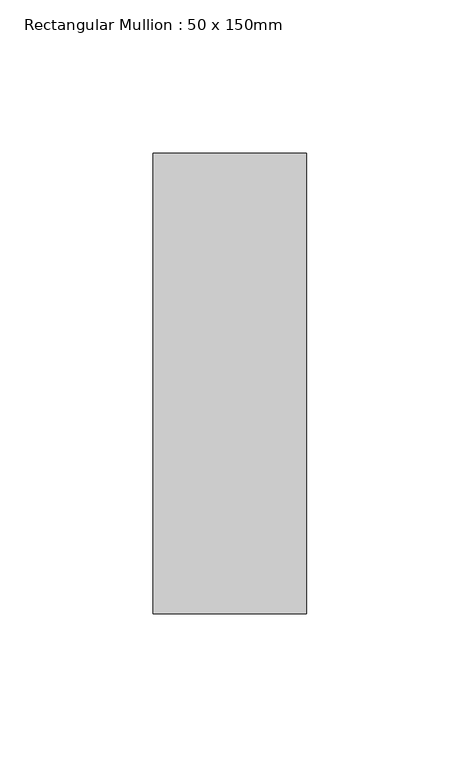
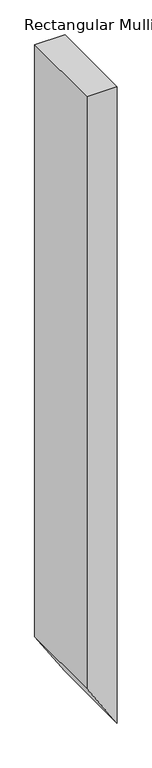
"""IFC4 building model written with IfcOpenShell, lengths in millimetres: member geometry, Rectangular Mullion : 50 x 150mm."""

from ifc_helpers import new_model, si_unit, frame, origin, place, context, project, spatial, polyline, outline, extrude, source, transform, mapped, element, save


def rectangular_mullion_50_x_150mm_d4bc64f5(model_context):
    return source(origin(), model_context, "Body", "SweptSolid", [
        extrude(outline(polyline([(0.0, 25.0), (0.0, -25.0), (-1035.4034311, -25.0), (-1112.664536, 25.0), (0.0, 25.0)])), frame((0.0, -75.0, 0.0), z_axis=(0.0, 1.0, 0.0), x_axis=(0.0, 0.0, 1.0)), (0.0, 0.0, 1.0), 150.0),
    ])


if __name__ == "__main__":
    model = new_model("IFC4")
    model_context = context("Model", 3, world=origin())
    ifc_project = project(units=[si_unit("LENGTHUNIT", "METRE", prefix="MILLI")], contexts=[model_context])
    site = spatial("IfcSite", under=ifc_project)
    building = spatial("IfcBuilding", under=site)
    placement = place(None, origin())
    rectangular_mullion_50_x_150mm_shape = rectangular_mullion_50_x_150mm_d4bc64f5(model_context)
    element("IfcMember", 1, ObjectType="Rectangular Mullion : 50 x 150mm", at=placement, inside=building, context=model_context, shape_type="MappedRepresentation", body=[
        mapped(rectangular_mullion_50_x_150mm_shape, transform((0.0, 0.0, 0.0), x_axis=(1.0, 0.0, 0.0), y_axis=(0.0, 1.0, 0.0), z_axis=(0.0, 0.0, 1.0))),
    ])
    save(model, "model.ifc")
